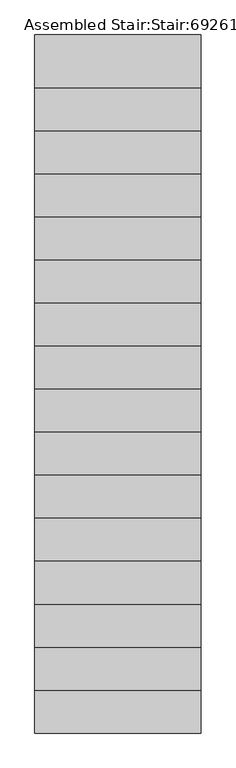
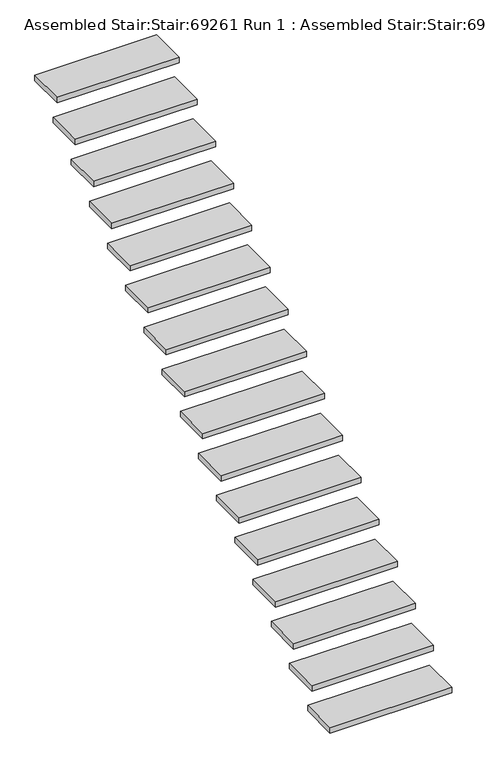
"""IFC4 building model written with IfcOpenShell, lengths in millimetres: stair geometry, Assembled Stair:Stair:69261 Run 1 : Assembled Stair:Stair:69261 Run 1."""

from ifc_helpers import new_model, si_unit, frame, origin, place, context, project, spatial, polyline, outline, extrude, source, transform, mapped, element, save


def assembled_stair_stair_69261_run_1_assembled_stair_stair_f02f855f(model_context):
    return source(origin(), model_context, "Body", "SweptSolid", [
        extrude(outline(polyline([(23349.8089026, -22024.6322236), (23349.8089026, -21754.6322236), (24199.8089026, -21754.6322236), (24199.8089026, -22024.6322236), (23349.8089026, -22024.6322236)])), frame((0.0, 0.0, 2783.5294118), z_axis=(0.0, 0.0, 1.0), x_axis=(1.0, 0.0, 0.0)), (0.0, 0.0, 1.0), 40.0),
        extrude(outline(polyline([(23349.8089026, -22244.6322236), (23349.8089026, -21974.6322236), (24199.8089026, -21974.6322236), (24199.8089026, -22244.6322236), (23349.8089026, -22244.6322236)])), frame((0.0, 0.0, 2607.0588235), z_axis=(0.0, 0.0, 1.0), x_axis=(1.0, 0.0, 0.0)), (0.0, 0.0, 1.0), 40.0),
        extrude(outline(polyline([(23349.8089026, -22464.6322236), (23349.8089026, -22194.6322236), (24199.8089026, -22194.6322236), (24199.8089026, -22464.6322236), (23349.8089026, -22464.6322236)])), frame((0.0, 0.0, 2430.5882353), z_axis=(0.0, 0.0, 1.0), x_axis=(1.0, 0.0, 0.0)), (0.0, 0.0, 1.0), 40.0),
        extrude(outline(polyline([(23349.8089026, -22684.6322236), (23349.8089026, -22414.6322236), (24199.8089026, -22414.6322236), (24199.8089026, -22684.6322236), (23349.8089026, -22684.6322236)])), frame((0.0, 0.0, 2254.1176471), z_axis=(0.0, 0.0, 1.0), x_axis=(1.0, 0.0, 0.0)), (0.0, 0.0, 1.0), 40.0),
        extrude(outline(polyline([(23349.8089026, -22904.6322236), (23349.8089026, -22634.6322236), (24199.8089026, -22634.6322236), (24199.8089026, -22904.6322236), (23349.8089026, -22904.6322236)])), frame((0.0, 0.0, 2077.6470588), z_axis=(0.0, 0.0, 1.0), x_axis=(1.0, 0.0, 0.0)), (0.0, 0.0, 1.0), 40.0),
        extrude(outline(polyline([(23349.8089026, -23124.6322236), (23349.8089026, -22854.6322236), (24199.8089026, -22854.6322236), (24199.8089026, -23124.6322236), (23349.8089026, -23124.6322236)])), frame((0.0, 0.0, 1901.1764706), z_axis=(0.0, 0.0, 1.0), x_axis=(1.0, 0.0, 0.0)), (0.0, 0.0, 1.0), 40.0),
        extrude(outline(polyline([(23349.8089026, -23344.6322236), (23349.8089026, -23074.6322236), (24199.8089026, -23074.6322236), (24199.8089026, -23344.6322236), (23349.8089026, -23344.6322236)])), frame((0.0, 0.0, 1724.7058824), z_axis=(0.0, 0.0, 1.0), x_axis=(1.0, 0.0, 0.0)), (0.0, 0.0, 1.0), 40.0),
        extrude(outline(polyline([(23349.8089026, -23564.6322236), (23349.8089026, -23294.6322236), (24199.8089026, -23294.6322236), (24199.8089026, -23564.6322236), (23349.8089026, -23564.6322236)])), frame((0.0, 0.0, 1548.2352941), z_axis=(0.0, 0.0, 1.0), x_axis=(1.0, 0.0, 0.0)), (0.0, 0.0, 1.0), 40.0),
        extrude(outline(polyline([(23349.8089026, -23784.6322236), (23349.8089026, -23514.6322236), (24199.8089026, -23514.6322236), (24199.8089026, -23784.6322236), (23349.8089026, -23784.6322236)])), frame((0.0, 0.0, 1371.7647059), z_axis=(0.0, 0.0, 1.0), x_axis=(1.0, 0.0, 0.0)), (0.0, 0.0, 1.0), 40.0),
        extrude(outline(polyline([(23349.8089026, -24004.6322236), (23349.8089026, -23734.6322236), (24199.8089026, -23734.6322236), (24199.8089026, -24004.6322236), (23349.8089026, -24004.6322236)])), frame((0.0, 0.0, 1195.2941176), z_axis=(0.0, 0.0, 1.0), x_axis=(1.0, 0.0, 0.0)), (0.0, 0.0, 1.0), 40.0),
        extrude(outline(polyline([(23349.8089026, -24224.6322236), (23349.8089026, -23954.6322236), (24199.8089026, -23954.6322236), (24199.8089026, -24224.6322236), (23349.8089026, -24224.6322236)])), frame((0.0, 0.0, 1018.8235294), z_axis=(0.0, 0.0, 1.0), x_axis=(1.0, 0.0, 0.0)), (0.0, 0.0, 1.0), 40.0),
        extrude(outline(polyline([(23349.8089026, -24444.6322236), (23349.8089026, -24174.6322236), (24199.8089026, -24174.6322236), (24199.8089026, -24444.6322236), (23349.8089026, -24444.6322236)])), frame((0.0, 0.0, 842.3529412), z_axis=(0.0, 0.0, 1.0), x_axis=(1.0, 0.0, 0.0)), (0.0, 0.0, 1.0), 40.0),
        extrude(outline(polyline([(23349.8089026, -24664.6322236), (23349.8089026, -24394.6322236), (24199.8089026, -24394.6322236), (24199.8089026, -24664.6322236), (23349.8089026, -24664.6322236)])), frame((0.0, 0.0, 665.8823529), z_axis=(0.0, 0.0, 1.0), x_axis=(1.0, 0.0, 0.0)), (0.0, 0.0, 1.0), 40.0),
        extrude(outline(polyline([(23349.8089026, -24884.6322236), (23349.8089026, -24614.6322236), (24199.8089026, -24614.6322236), (24199.8089026, -24884.6322236), (23349.8089026, -24884.6322236)])), frame((0.0, 0.0, 489.4117647), z_axis=(0.0, 0.0, 1.0), x_axis=(1.0, 0.0, 0.0)), (0.0, 0.0, 1.0), 40.0),
        extrude(outline(polyline([(23349.8089026, -25104.6322236), (23349.8089026, -24834.6322236), (24199.8089026, -24834.6322236), (24199.8089026, -25104.6322236), (23349.8089026, -25104.6322236)])), frame((0.0, 0.0, 312.9411765), z_axis=(0.0, 0.0, 1.0), x_axis=(1.0, 0.0, 0.0)), (0.0, 0.0, 1.0), 40.0),
        extrude(outline(polyline([(23349.8089026, -25324.6322236), (23349.8089026, -25054.6322236), (24199.8089026, -25054.6322236), (24199.8089026, -25324.6322236), (23349.8089026, -25324.6322236)])), frame((0.0, 0.0, 136.4705882), z_axis=(0.0, 0.0, 1.0), x_axis=(1.0, 0.0, 0.0)), (0.0, 0.0, 1.0), 40.0),
    ])


if __name__ == "__main__":
    model = new_model("IFC4")
    model_context = context("Model", 3, world=origin())
    ifc_project = project(units=[si_unit("LENGTHUNIT", "METRE", prefix="MILLI")], contexts=[model_context])
    site = spatial("IfcSite", under=ifc_project)
    building = spatial("IfcBuilding", under=site)
    placement = place(None, origin())
    assembled_stair_stair_69261_run_1_assembled_stair_stair_shape = assembled_stair_stair_69261_run_1_assembled_stair_stair_f02f855f(model_context)
    element("IfcStair", 1, ObjectType="Assembled Stair:Stair:69261 Run 1 : Assembled Stair:Stair:69261 Run 1", at=placement, inside=building, context=model_context, shape_type="MappedRepresentation", body=[
        mapped(assembled_stair_stair_69261_run_1_assembled_stair_stair_shape, transform((0.0, 0.0, 0.0), x_axis=(1.0, 0.0, 0.0), y_axis=(0.0, 1.0, 0.0), z_axis=(0.0, 0.0, 1.0))),
    ])
    save(model, "model.ifc")
